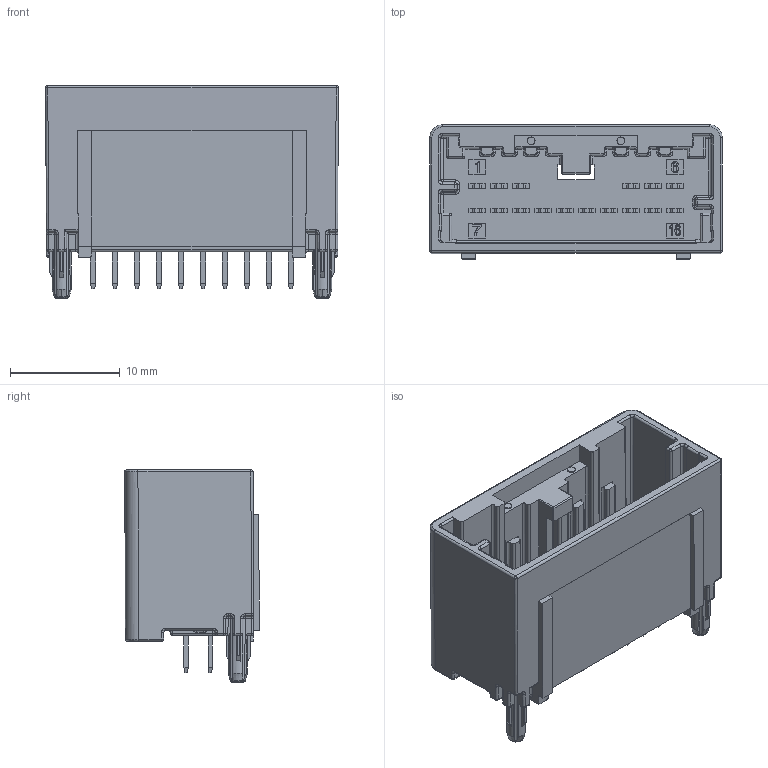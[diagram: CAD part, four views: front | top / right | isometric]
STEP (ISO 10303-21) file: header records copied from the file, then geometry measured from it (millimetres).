
FILE_DESCRIPTION((''),'2;1');
FILE_NAME('348250160','2020-11-13T',('gga'),(''),'PRO/ENGINEER BY PARAMETRIC TECHNOLOGY CORPORATION, 2016010','PRO/ENGINEER BY PARAMETRIC TECHNOLOGY CORPORATION, 2016010','');
FILE_SCHEMA(('CONFIG_CONTROL_DESIGN'));
Length unit declared in the file: millimetre
Products named in the file (1): 348250160
Bounding box: 26.63 x 12.24 x 19.33 mm (x, y, z)
Volume: 1711.1 mm3; surface area: 3330 mm2
Topology: 1 solids, 1 shells, 1378 faces, 3500 edges, 2059 vertices
Faces by surface type: plane 683, cylinder 449, sphere 109, bspline 103, extrusion 22, torus 8, cone 4
Entity records: 42378 total; most frequent: CARTESIAN_POINT 10913, ORIENTED_EDGE 6710, DIRECTION 6139, EDGE_CURVE 3355, VECTOR 2227, LINE 2205, VERTEX_POINT 2023, AXIS2_PLACEMENT_3D 1956
